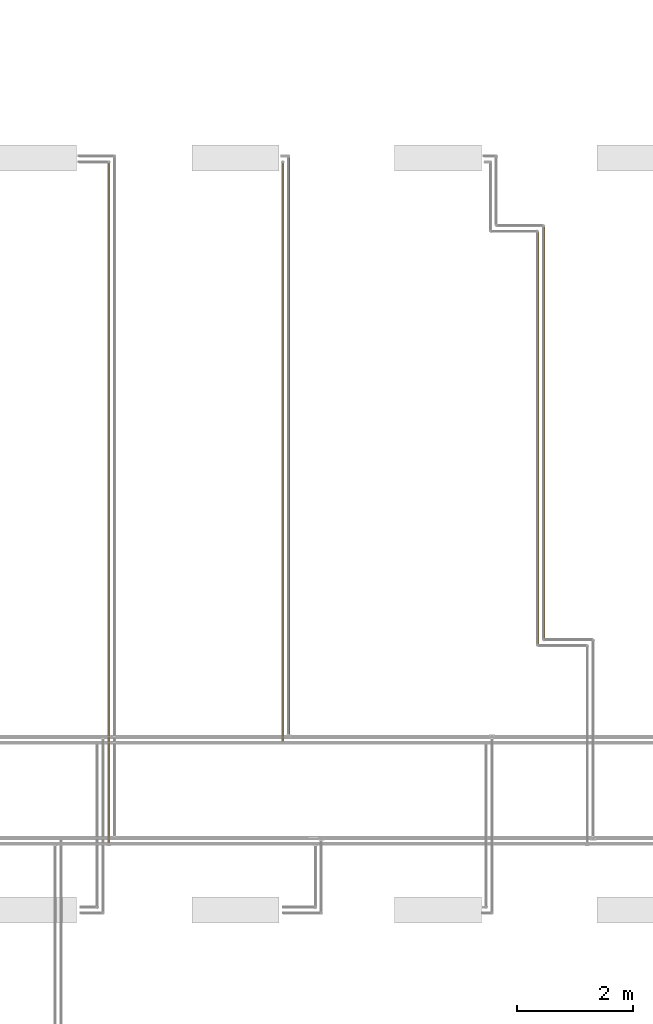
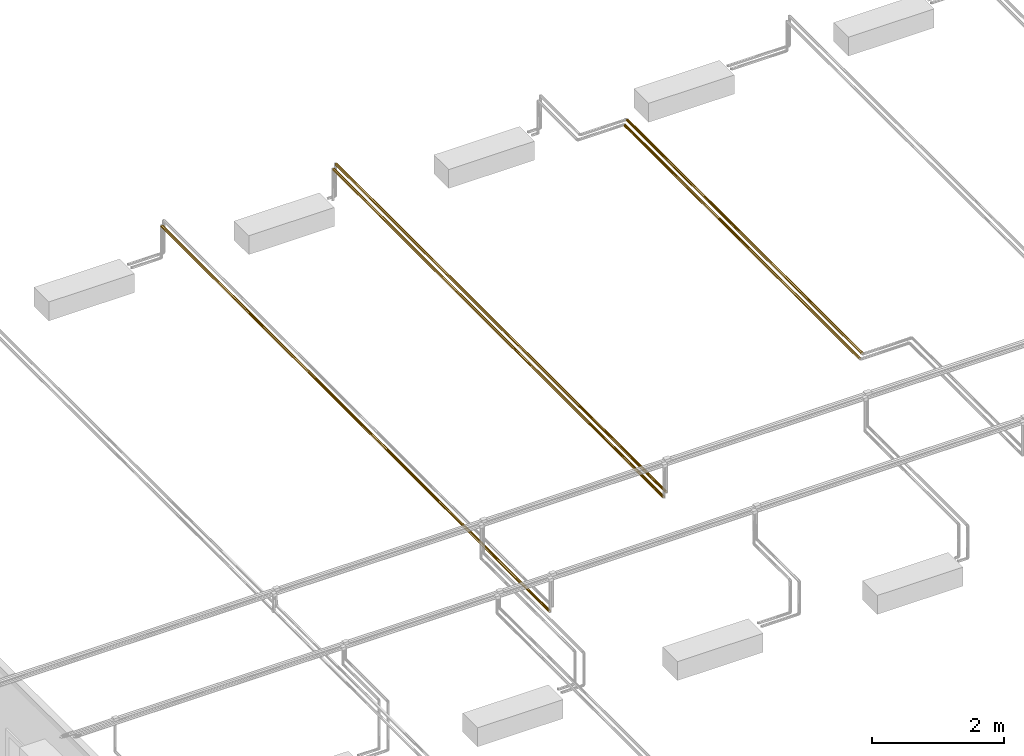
# One storey, part 132 of 652: 5 coverings.
"""IFC2X3 building model written with IfcOpenShell, lengths in millimetres."""

import ifcopenshell
import ifcopenshell.guid

model = None  # the IFC model being written
_history = None  # IfcOwnerHistory: only IFC2X3 demands one
_inside = {}  # id of a spatial element -> (the spatial element, [elements in it])
_under = {}  # id of a project, library or spatial element -> (it, [spatial elements below it])
_declared = {}  # id of a project -> (the project, [libraries it declares])
_typed = {}  # id of a type object -> (the type object, [elements of that type])
_made_of = {}  # id of a material, layer set ... -> (it, [elements and type objects made of it])


def new_model(schema):
    """Start an empty IFC model of exactly this schema.

    Asked for "IFC4X3", IfcOpenShell would pick the latest addendum, in which some entities
    have other attributes; the version numbers below select the first issue.
    IFC2X3 requires an IfcOwnerHistory on every rooted entity: one is made here for all.
    """
    global model, _history
    if schema == "IFC4X3":
        model = ifcopenshell.file(schema_version=(4, 3, 0, 0))
    else:
        model = ifcopenshell.file(schema=schema)
    _inside.clear()
    _under.clear()
    _declared.clear()
    _typed.clear()
    _made_of.clear()
    _history = None
    if model.schema == "IFC2X3":
        org = make("IfcOrganization", Name="unknown")
        user = make(
            "IfcPersonAndOrganization",
            ThePerson=make("IfcPerson", FamilyName="unknown"),
            TheOrganization=org,
        )
        app = make(
            "IfcApplication",
            ApplicationDeveloper=org,
            Version="unknown",
            ApplicationFullName="unknown",
            ApplicationIdentifier="unknown",
        )
        _history = make(
            "IfcOwnerHistory",
            OwningUser=user,
            OwningApplication=app,
            ChangeAction="ADDED",
            CreationDate=0,
        )
    return model


def make(cls, **values):
    """One entity of the class cls with the attributes given. An attribute that is None is left unset."""
    return model.create_entity(
        cls, **{name: value for name, value in values.items() if value is not None}
    )


def entity(cls, *values):
    """Any entity or typed value of the class cls, its attributes in the order of the schema. None: left unset."""
    e = model.create_entity(cls)
    for i, value in enumerate(values):
        if value is not None:
            e[i] = value
    return e


def rooted(cls, **values):
    """An entity with a GlobalId (a new one), such as an element, a storey or a relation."""
    return make(cls, GlobalId=ifcopenshell.guid.new(), OwnerHistory=_history, **values)


def si_unit(unit_type, name, prefix=None):
    """IfcSIUnit, for example si_unit("LENGTHUNIT", "METRE", prefix="MILLI")."""
    return make("IfcSIUnit", UnitType=unit_type, Prefix=prefix, Name=name)


def converted_unit(unit_type, name, factor, base, dimensions=None, offset=None):
    """IfcConversionBasedUnit, such as the inch: factor (a typed value) times the base unit."""
    return make(
        "IfcConversionBasedUnit"
        if offset is None
        else "IfcConversionBasedUnitWithOffset",
        ConversionOffset=offset,
        Dimensions=None
        if dimensions is None
        else entity("IfcDimensionalExponents", *dimensions),
        UnitType=unit_type,
        Name=name,
        ConversionFactor=make(
            "IfcMeasureWithUnit", ValueComponent=factor, UnitComponent=base
        ),
    )


def assignment(units):
    """IfcUnitAssignment: the units of a project."""
    return None if units is None else make("IfcUnitAssignment", Units=units)


def point(xyz):
    """IfcCartesianPoint."""
    return None if xyz is None else make("IfcCartesianPoint", Coordinates=xyz)


def direction(xyz):
    """IfcDirection."""
    return None if xyz is None else make("IfcDirection", DirectionRatios=xyz)


def frame(location, z_axis=None, x_axis=None):
    """IfcAxis2Placement3D, a coordinate frame: its origin and axes. An axis left out is left unset."""
    return make(
        "IfcAxis2Placement3D",
        Location=point(location),
        Axis=direction(z_axis),
        RefDirection=direction(x_axis),
    )


def origin():
    """The frame at (0, 0, 0) with its axes left unset."""
    return frame((0.0, 0.0, 0.0))


def place(relative_to, where):
    """IfcLocalPlacement: puts the frame where relative to a parent placement (None: the world)."""
    return make(
        "IfcLocalPlacement", PlacementRelTo=relative_to, RelativePlacement=where
    )


def context(
    kind, dimensions, precision=None, world=None, true_north=None, identifier=None
):
    """IfcGeometricRepresentationContext, for example the 3D "Model" context."""
    return make(
        "IfcGeometricRepresentationContext",
        ContextIdentifier=identifier,
        ContextType=kind,
        CoordinateSpaceDimension=dimensions,
        Precision=precision,
        WorldCoordinateSystem=world,
        TrueNorth=true_north,
    )


def subcontext(parent, identifier, kind, view, scale=None):
    """IfcGeometricRepresentationSubContext, for example "Body" below "Model"."""
    return make(
        "IfcGeometricRepresentationSubContext",
        ContextIdentifier=identifier,
        ContextType=kind,
        ParentContext=parent,
        TargetScale=scale,
        TargetView=view,
    )


def project(units=None, contexts=None):
    """IfcProject with its units and contexts."""
    return rooted(
        "IfcProject",
        Name="project",
        RepresentationContexts=contexts,
        UnitsInContext=assignment(units),
    )


def spatial(cls, under=None, at=None, **own):
    """A site, building, storey or space (cls), placed at a placement, below another one or the project."""
    s = rooted(cls, ObjectPlacement=at, **own)
    if under is not None:
        _under.setdefault(under.id(), (under, []))[1].append(s)
    return s


def faces_of(points, faces, orient=None, outer=None):
    """IfcFace entities. A face is a list of loops; a loop is a list of indices into points, from 0.

    orient and outer hold one flag for each loop. By default every Orientation is true, the
    first loop of a face is its IfcFaceOuterBound and the others are IfcFaceBound.
    """
    made = []
    for i, loops in enumerate(faces):
        bounds = []
        for j, loop in enumerate(loops):
            is_outer = j == 0 if outer is None else outer[i][j]
            bounds.append(
                make(
                    "IfcFaceOuterBound" if is_outer else "IfcFaceBound",
                    Bound=make("IfcPolyLoop", Polygon=[points[k] for k in loop]),
                    Orientation=True if orient is None else orient[i][j],
                )
            )
        made.append(make("IfcFace", Bounds=bounds))
    return made


def faceted_brep(points, faces, orient=None, outer=None, voids=None):
    """IfcFacetedBrep: a solid bounded by flat faces; with voids (closed shells), ...WithVoids."""
    shared = [point(p) for p in points]
    hull = make("IfcClosedShell", CfsFaces=faces_of(shared, faces, orient, outer))
    if voids is None:
        return make("IfcFacetedBrep", Outer=hull)
    return make(
        "IfcFacetedBrepWithVoids",
        Outer=hull,
        Voids=[
            make(cls, CfsFaces=faces_of(shared, fs, o, b)) for cls, fs, o, b in voids
        ],
    )


def shape(context_of_items, identifier, shape_type, items):
    """IfcShapeRepresentation: the items that make up one representation, for example the "Body"."""
    return make(
        "IfcShapeRepresentation",
        ContextOfItems=context_of_items,
        RepresentationIdentifier=identifier,
        RepresentationType=shape_type,
        Items=items,
    )


def material(Name=None, Category=None):
    """IfcMaterial."""
    return make("IfcMaterial", Name=Name, Category=Category)


def made_of(thing, what):
    """Note that an element or type object is made of a material, layer set ...; save() writes the relation."""
    if what is not None:
        _made_of.setdefault(what.id(), (what, []))[1].append(thing)
    return thing


def type_object(cls, material=None, **own):
    """A type object (cls), such as IfcWallType, which elements share."""
    return made_of(rooted(cls, **own), material)


def element(
    cls,
    number,
    at=None,
    inside=None,
    cuts=None,
    type_object=None,
    material=None,
    context=None,
    identifier="Body",
    shape_type=None,
    held_by="IfcProductDefinitionShape",
    body=None,
    shapes=None,
    **own,
):
    """One element of the class cls, such as IfcWall. Its Tag is "e" and its number.

    at: its placement. inside: the storey or other place that contains it. cuts: it is an
    opening in that element (IfcRelVoidsElement). A single representation is given by context,
    identifier, shape_type and body (its items); several are given by shapes. held_by: the class
    of the entity that holds the representations. save() writes the other relations.
    """
    e = rooted(cls, Tag="e%d" % number, ObjectPlacement=at, **own)
    if body is not None:
        shapes = [shape(context, identifier, shape_type, body)]
    if shapes is not None:
        e.Representation = make(held_by, Representations=shapes)
    if inside is not None:
        _inside.setdefault(inside.id(), (inside, []))[1].append(e)
    if cuts is not None:
        rooted(
            "IfcRelVoidsElement", RelatingBuildingElement=cuts, RelatedOpeningElement=e
        )
    if type_object is not None:
        _typed.setdefault(type_object.id(), (type_object, []))[1].append(e)
    return made_of(e, material)


def aggregate(whole, parts):
    """IfcRelAggregates: a whole, such as a stair, and the parts it consists of."""
    return rooted("IfcRelAggregates", RelatingObject=whole, RelatedObjects=parts)


def save(model, path):
    """Write the relations noted so far, then the file.

    IfcRelAggregates (storeys below a building ...), IfcRelContainedInSpatialStructure (elements
    in a storey), IfcRelDefinesByType, IfcRelAssociatesMaterial and IfcRelDeclares: one each for
    every whole, place, type object, material and project.
    """
    for whole, parts in _under.values():
        aggregate(whole, parts)
    for where, things in _inside.values():
        rooted(
            "IfcRelContainedInSpatialStructure",
            RelatedElements=things,
            RelatingStructure=where,
        )
    for kind, things in _typed.values():
        rooted("IfcRelDefinesByType", RelatedObjects=things, RelatingType=kind)
    for what, things in _made_of.values():
        rooted("IfcRelAssociatesMaterial", RelatedObjects=things, RelatingMaterial=what)
    for by, libraries in _declared.values():
        rooted("IfcRelDeclares", RelatingContext=by, RelatedDefinitions=libraries)
    model.write(path)


model = new_model("IFC2X3")

# Units and contexts
model_context = context("Model", 3, precision=0.01, world=frame((0.0, 0.0, 308426.39999999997)), true_north=direction((6.123233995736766e-17, 1.0)))
plan_context = context("Plan", 3, precision=0.01, world=frame((0.0, 0.0, 308426.39999999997)), true_north=direction((6.123233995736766e-17, 1.0)))
body_context = subcontext(model_context, "Body", "Model", "MODEL_VIEW")
ifc_project = project(units=[si_unit("LENGTHUNIT", "METRE", prefix="MILLI"), si_unit("AREAUNIT", "SQUARE_METRE"), si_unit("VOLUMEUNIT", "CUBIC_METRE"), converted_unit("PLANEANGLEUNIT", "DEGREE", entity("IfcPlaneAngleMeasure", 0.017453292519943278), si_unit("PLANEANGLEUNIT", "RADIAN"), dimensions=[0, 0, 0, 0, 0, 0, 0])], contexts=[model_context, plan_context])

# Site, building, storey
site_placement = place(None, origin())
site = spatial("IfcSite", under=ifc_project, at=site_placement, Name="Default", CompositionType="ELEMENT")
building_placement = place(site_placement, origin())
building = spatial("IfcBuilding", under=site, at=building_placement, CompositionType="ELEMENT")
storey_placement = place(building_placement, frame((0.0, 0.0, 1730.6999999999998)))
storey = spatial("IfcBuildingStorey", under=building, at=storey_placement, Name="EG_Produktion_FFB", CompositionType="ELEMENT", Elevation=1730.6999999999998)

# Coverings
ifc_material = material(Name="Dämmung - Armaflex-Schlauch")
covering_type = type_object("IfcCoveringType", Name="Rohrdämmung außen:Armaflex-Schlauch", PredefinedType="INSULATION")
covering_1_placement = place(storey_placement, frame((62241.95466089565, 69931.35497776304, 3274.642227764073)))
element("IfcCovering", 1, at=covering_1_placement, inside=storey, type_object=covering_type, material=ifc_material, Name="Rohrdämmung außen:Armaflex-Schlauch", ObjectType="Rohrdämmung außen:Armaflex-Schlauch", PredefinedType="INSULATION", context=body_context, shape_type="Brep", body=[
    faceted_brep([(12.755803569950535, 1.5952722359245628, 6.8151785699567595), (16.956459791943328, 1.5952722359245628, 5.075209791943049), (20.454018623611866, 1.5952722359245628, 3.6264734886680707), (25.35777223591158, 1.5952722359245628, 1.595272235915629), (29.558428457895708, 1.5952722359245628, 3.335241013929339), (33.759084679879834, 1.5952722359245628, 5.075209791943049), (37.95974090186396, 1.5952722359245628, 6.8151785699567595), (42.160397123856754, 1.5952722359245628, 8.55514734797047), (43.90036590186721, 1.5952722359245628, 12.755803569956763), (45.640334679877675, 1.5952722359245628, 16.956459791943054), (47.089070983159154, 1.5952722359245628, 20.454018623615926), (49.12027223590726, 1.5952722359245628, 25.35777223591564), (48.047093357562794, 1.5952722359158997, 30.292313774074), (46.97391447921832, 1.5952722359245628, 35.22685531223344), (43.95116498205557, 1.5952722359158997, 39.26743877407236), (40.92841548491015, 1.5952722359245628, 43.30802223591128), (9.787128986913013, 1.5952722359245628, 43.30802223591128), (6.764379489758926, 1.5952722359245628, 39.26743877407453), (3.7416299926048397, 1.5952722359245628, 35.22685531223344), (2.7439520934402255, 1.5952722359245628, 30.63947185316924), (1.5952722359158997, 1.5952722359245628, 25.35777223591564), (3.626473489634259, 1.5952722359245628, 20.454018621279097), (5.075209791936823, 1.5952722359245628, 16.956459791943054), (6.815178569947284, 1.5952722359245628, 12.755803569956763), (8.55514734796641, 1.5952722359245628, 8.55514734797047), (1.5952722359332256, 10005.697427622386, 25.357772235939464), (3.626473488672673, 10005.697427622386, 30.261525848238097), (5.075209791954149, 10005.697427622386, 33.75908467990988), (6.8151785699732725, 10005.697427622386, 37.959740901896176), (8.555147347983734, 10005.697427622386, 42.160397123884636), (12.755803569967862, 10005.697427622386, 43.900365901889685), (16.95645979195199, 10005.697427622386, 45.64033467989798), (20.454018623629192, 10005.697427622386, 47.08907098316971), (25.357772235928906, 10005.697427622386, 49.120272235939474), (29.558428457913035, 10005.697427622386, 47.380303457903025), (33.759084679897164, 10005.697427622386, 45.6403346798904), (37.95974090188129, 10005.697427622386, 43.90036590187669), (42.16039712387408, 10005.697427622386, 42.160397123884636), (43.90036590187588, 10005.697427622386, 37.95974090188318), (45.64033467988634, 10005.697427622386, 33.75908467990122), (47.089070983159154, 10005.697427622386, 30.26152584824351), (49.12027223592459, 10005.697427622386, 25.357772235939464), (47.9715923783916, 10005.697427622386, 20.076072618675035), (46.973914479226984, 10005.697427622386, 15.488689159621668), (43.951164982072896, 10005.697427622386, 11.448105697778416), (40.92841548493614, 10005.697427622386, 7.407522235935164), (9.787128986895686, 10005.697427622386, 7.407522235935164), (6.764379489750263, 10005.697427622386, 11.448105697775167), (3.7416299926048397, 10005.697427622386, 15.48868915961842), (2.743952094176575, 10005.697427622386, 20.076072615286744), (13.41742969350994, 10003.541519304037, 5.251613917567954), (17.04773040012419, 10001.38561098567, 3.095705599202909), (1.5952722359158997, 4558.996604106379, 25.35777223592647), (25.357772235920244, 4553.190898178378, 1.595272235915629), (20.026201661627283, 10000.84782817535, 2.5579227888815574), (25.357772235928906, 9999.885177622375, 1.595272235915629), (25.357772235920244, 5448.448293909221, 1.595272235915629), (37.4932292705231, 5323.664360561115, 4.927718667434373), (30.68934281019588, 10000.847828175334, 2.5579227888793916), (33.66781407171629, 10001.38561098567, 3.0957055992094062), (37.29811477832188, 10003.541519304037, 5.251613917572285), (49.12027223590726, 4558.996612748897, 25.35777223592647), (49.12027223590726, 5448.296087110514, 25.357772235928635), (37.49322927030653, 4683.628339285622, 45.787825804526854), (33.66781407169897, 5.9070888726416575, 47.61983887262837), (25.35777223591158, 4558.99661295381, 49.12027223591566), (30.689342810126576, 6.444871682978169, 48.1576216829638), (25.357772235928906, 5454.108336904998, 49.12027223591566), (37.29811477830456, 3.75118055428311, 45.46393055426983), (25.35777223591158, 7.407522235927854, 49.12027223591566), (20.026201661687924, 6.444871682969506, 48.1576216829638), (17.04773040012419, 5.9070888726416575, 47.61983887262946), (13.417429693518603, 3.75118055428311, 45.46393055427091)], [[[0, 1, 2, 3, 4, 5, 6, 7, 8, 9, 10, 11, 12, 13, 14, 15, 16, 17, 18, 19, 20, 21, 22, 23, 24]], [[25, 26, 27, 28, 29, 30, 31, 32, 33, 34, 35, 36, 37, 38, 39, 40, 41, 42, 43, 44, 45, 46, 47, 48, 49]], [[21, 49, 22]], [[50, 51, 1]], [[21, 20, 52]], [[22, 49, 48]], [[23, 22, 48]], [[0, 24, 46]], [[0, 46, 50]], [[53, 3, 2]], [[46, 24, 47]], [[54, 2, 51]], [[51, 2, 1]], [[54, 55, 56, 53]], [[2, 54, 53]], [[47, 24, 23]], [[49, 52, 25]], [[49, 21, 52]], [[23, 48, 47]], [[50, 1, 0]], [[57, 7, 6, 5]], [[4, 58, 59]], [[4, 3, 53, 56]], [[7, 57, 45]], [[57, 59, 60, 45]], [[43, 8, 44]], [[10, 42, 61]], [[56, 58, 4]], [[56, 55, 58]], [[42, 41, 62, 61]], [[4, 59, 5]], [[9, 8, 43]], [[9, 42, 10]], [[44, 8, 7]], [[5, 59, 57]], [[42, 9, 43]], [[61, 11, 10]], [[44, 7, 45]], [[39, 12, 40]], [[37, 63, 15]], [[62, 40, 12]], [[13, 38, 14]], [[38, 13, 39]], [[35, 64, 63]], [[65, 66, 34]], [[34, 33, 67, 65]], [[34, 66, 64]], [[63, 64, 68, 15]], [[34, 64, 35]], [[63, 37, 36, 35]], [[38, 37, 14]], [[65, 69, 66]], [[12, 11, 61, 62]], [[14, 37, 15]], [[12, 39, 13]], [[62, 41, 40]], [[70, 32, 71]], [[19, 26, 52]], [[67, 33, 32]], [[70, 69, 65, 67]], [[30, 16, 72]], [[30, 29, 16]], [[28, 18, 17]], [[17, 29, 28]], [[32, 70, 67]], [[18, 27, 19]], [[72, 71, 31]], [[28, 27, 18]], [[16, 29, 17]], [[71, 32, 31]], [[52, 20, 19]], [[26, 19, 27]], [[26, 25, 52]], [[72, 31, 30]], [[64, 66, 69, 70, 71, 72, 16, 15, 68]], [[45, 60, 59, 58, 55, 54, 51, 50, 46]]]),
])
covering_2_placement = place(storey_placement, frame((66646.95466089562, 71610.44746185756, 3274.642227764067)))
element("IfcCovering", 2, at=covering_2_placement, inside=storey, type_object=covering_type, material=ifc_material, Name="Rohrdämmung außen:Armaflex-Schlauch", ObjectType="Rohrdämmung außen:Armaflex-Schlauch", PredefinedType="INSULATION", context=body_context, shape_type="Brep", body=[
    faceted_brep([(1.5952722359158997, 1.5952722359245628, 25.357772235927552), (3.3352410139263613, 1.5952722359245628, 21.15711601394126), (5.075209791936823, 1.5952722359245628, 16.956459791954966), (6.81517856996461, 1.5952722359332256, 12.755803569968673), (8.55514734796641, 1.5952722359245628, 8.55514734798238), (12.755803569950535, 1.5952722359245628, 6.815178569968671), (16.956459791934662, 1.5952722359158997, 5.075209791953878), (19.6490005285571, 1.5952722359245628, 3.959922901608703), (25.35777223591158, 1.5952722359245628, 1.5952722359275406), (30.292313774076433, 1.5952722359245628, 2.668451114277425), (35.22685531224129, 1.5952722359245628, 3.741629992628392), (39.267438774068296, 1.5952722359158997, 6.764379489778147), (43.30802223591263, 1.5952722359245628, 9.787128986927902), (43.30802223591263, 1.5952722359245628, 40.92841548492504), (39.26743877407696, 1.5952722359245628, 43.95116498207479), (35.22685531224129, 1.5952722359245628, 46.973914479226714), (30.292313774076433, 1.5952722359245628, 48.04709335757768), (25.35777223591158, 1.5952722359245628, 49.120272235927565), (21.157116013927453, 1.5952722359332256, 47.380303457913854), (16.956459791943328, 1.5952722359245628, 45.64033467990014), (12.755803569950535, 1.5952722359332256, 43.90036590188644), (8.55514734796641, 1.5952722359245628, 42.16039712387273), (6.815178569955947, 1.5952722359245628, 37.959740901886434), (5.075209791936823, 1.5952722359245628, 33.75908467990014), (3.3352410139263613, 1.5952722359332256, 29.558428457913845), (15.48868915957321, 7126.604943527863, 3.7416299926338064), (11.448105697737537, 7126.604943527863, 6.764379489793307), (7.407522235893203, 7126.604943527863, 9.78712898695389), (7.407522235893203, 7126.604943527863, 40.92841548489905), (11.448105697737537, 7126.604943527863, 43.951164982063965), (15.488689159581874, 7126.604943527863, 46.973914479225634), (20.423230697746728, 7126.604943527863, 48.0470933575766), (25.35777223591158, 7126.604943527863, 49.12027223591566), (31.066543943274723, 7126.604943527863, 46.755621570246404), (33.759084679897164, 7126.604943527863, 45.640334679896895), (37.95974090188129, 7126.604943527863, 43.900365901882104), (42.160397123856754, 7126.604943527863, 42.16039712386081), (43.90036590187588, 7126.604943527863, 37.95974090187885), (45.64033467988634, 7126.604943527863, 33.75908467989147), (47.3803034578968, 7126.604943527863, 29.5584284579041), (49.12027223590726, 7126.604943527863, 25.35777223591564), (47.3803034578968, 7126.604943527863, 21.15711601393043), (45.640334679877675, 7126.604943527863, 16.95645979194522), (43.90036590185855, 7126.604943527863, 12.755803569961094), (42.160397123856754, 7126.604943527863, 8.55514734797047), (37.95974090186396, 7126.604943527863, 6.8151785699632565), (33.759084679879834, 7126.604943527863, 5.075209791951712), (29.558428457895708, 7126.604943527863, 3.335241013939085), (25.35777223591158, 7126.604943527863, 1.595272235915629), (20.423230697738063, 7126.604943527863, 2.6684511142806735), (1.5952722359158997, 7120.792693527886, 25.35777223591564), (2.345488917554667, 7121.542910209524, 21.202751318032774), (3.095705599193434, 7122.2931268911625, 17.04773040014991), (5.2516139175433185, 7124.449035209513, 13.4174296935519), (48.3700555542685, 6.657305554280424, 21.20275131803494), (45.46393055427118, 3.75118055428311, 13.417429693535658), (47.61983887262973, 5.9070888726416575, 17.04773040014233), (49.12027223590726, 7.407522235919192, 25.357772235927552), (48.3700555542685, 6.657305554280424, 29.512793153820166), (47.61983887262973, 5.9070888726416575, 33.66781407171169), (45.46393055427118, 3.75118055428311, 37.298114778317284), (5.2516139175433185, 7124.449035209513, 37.29811477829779), (3.095705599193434, 7122.2931268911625, 33.667814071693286), (2.345488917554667, 7121.542910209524, 29.512793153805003)], [[[0, 1, 2, 3, 4, 5, 6, 7, 8, 9, 10, 11, 12, 13, 14, 15, 16, 17, 18, 19, 20, 21, 22, 23, 24]], [[25, 26, 27, 28, 29, 30, 31, 32, 33, 34, 35, 36, 37, 38, 39, 40, 41, 42, 43, 44, 45, 46, 47, 48, 49]], [[50, 51, 0]], [[48, 8, 49]], [[1, 51, 52]], [[53, 2, 52]], [[25, 5, 26]], [[6, 5, 25, 7]], [[27, 3, 53]], [[8, 7, 49]], [[26, 5, 4]], [[7, 25, 49]], [[4, 27, 26]], [[0, 51, 1]], [[1, 52, 2]], [[3, 27, 4]], [[3, 2, 53]], [[11, 45, 44]], [[48, 47, 8]], [[46, 10, 9]], [[46, 45, 10]], [[40, 54, 41]], [[12, 43, 55]], [[56, 42, 41]], [[9, 47, 46]], [[42, 56, 55]], [[10, 45, 11]], [[54, 56, 41]], [[8, 47, 9]], [[44, 12, 11]], [[57, 54, 40]], [[43, 12, 44]], [[43, 42, 55]], [[40, 58, 57]], [[33, 15, 35, 34]], [[58, 40, 39]], [[59, 38, 60]], [[14, 36, 35]], [[36, 14, 13]], [[15, 33, 16]], [[13, 37, 36]], [[38, 59, 39]], [[32, 16, 33]], [[13, 60, 37]], [[35, 15, 14]], [[39, 59, 58]], [[32, 17, 16]], [[60, 38, 37]], [[32, 18, 17]], [[22, 28, 61]], [[21, 29, 28]], [[31, 19, 18]], [[20, 30, 29]], [[21, 28, 22]], [[61, 62, 23]], [[63, 50, 0]], [[31, 30, 19]], [[61, 23, 22]], [[29, 21, 20]], [[24, 62, 63]], [[20, 19, 30]], [[18, 32, 31]], [[23, 62, 24]], [[63, 0, 24]], [[12, 55, 56, 54, 57, 58, 59, 60, 13]], [[63, 62, 61, 28, 27, 53, 52, 51, 50]]]),
])
covering_3_placement = place(storey_placement, frame((62141.95466089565, 69831.35497776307, 3274.642227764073)))
element("IfcCovering", 3, at=covering_3_placement, inside=storey, type_object=covering_type, material=ifc_material, Name="Rohrdämmung außen:Armaflex-Schlauch", ObjectType="Rohrdämmung außen:Armaflex-Schlauch", PredefinedType="INSULATION", context=body_context, shape_type="Brep", body=[
    faceted_brep([(12.755803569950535, 1.5952722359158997, 6.8151785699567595), (16.956459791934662, 1.5952722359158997, 5.075209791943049), (20.4540186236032, 1.5952722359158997, 3.6264734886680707), (25.35777223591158, 1.5952722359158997, 1.595272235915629), (29.558428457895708, 1.5952722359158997, 3.335241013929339), (33.759084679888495, 1.5952722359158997, 5.075209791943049), (37.95974090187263, 1.5952722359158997, 6.8151785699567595), (42.160397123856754, 1.5952722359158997, 8.55514734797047), (43.90036590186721, 1.5952722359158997, 12.755803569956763), (45.640334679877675, 1.5952722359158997, 16.956459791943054), (47.089070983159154, 1.5952722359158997, 20.454018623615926), (49.12027223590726, 1.5952722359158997, 25.35777223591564), (48.047093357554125, 1.5952722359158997, 30.292313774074), (46.97391447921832, 1.5952722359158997, 35.22685531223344), (43.951164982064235, 1.5952722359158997, 39.26743877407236), (40.92841548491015, 1.5952722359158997, 43.30802223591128), (9.787128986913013, 1.5952722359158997, 43.30802223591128), (6.764379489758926, 1.5952722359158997, 39.26743877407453), (3.7416299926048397, 1.5952722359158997, 35.22685531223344), (2.7439520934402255, 1.5952722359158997, 30.63947185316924), (1.5952722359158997, 1.5952722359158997, 25.35777223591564), (3.626473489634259, 1.5952722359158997, 20.454018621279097), (5.075209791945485, 1.5952722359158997, 16.956459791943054), (6.815178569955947, 1.5952722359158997, 12.755803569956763), (8.55514734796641, 1.5952722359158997, 8.55514734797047), (1.5952722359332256, 10005.697427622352, 25.357772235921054), (3.62647348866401, 10005.697427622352, 30.26152584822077), (5.075209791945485, 10005.697427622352, 33.75908467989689), (6.81517856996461, 10005.697427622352, 37.95974090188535), (8.555147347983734, 10005.697427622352, 42.160397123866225), (12.755803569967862, 10005.697427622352, 43.90036590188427), (16.95645979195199, 10005.697427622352, 45.64033467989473), (20.454018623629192, 10005.697427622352, 47.089070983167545), (25.357772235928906, 10005.697427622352, 49.12027223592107), (29.558428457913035, 10005.697427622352, 47.38030345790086), (33.759084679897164, 10005.697427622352, 45.64033467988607), (37.95974090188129, 10005.697427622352, 43.900365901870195), (42.16039712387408, 10005.697427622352, 42.160397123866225), (43.90036590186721, 10005.697427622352, 37.95974090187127), (45.640334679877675, 10005.697427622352, 33.759084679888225), (47.089070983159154, 10005.697427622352, 30.261525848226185), (49.12027223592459, 10005.697427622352, 25.357772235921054), (47.97159237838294, 10005.697427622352, 20.07607261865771), (46.97391447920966, 10005.697427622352, 15.488689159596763), (43.951164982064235, 10005.697427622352, 11.448105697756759), (40.92841548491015, 10005.697427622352, 7.407522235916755), (9.78712898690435, 10005.697427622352, 7.407522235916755), (6.764379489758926, 10005.697427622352, 11.448105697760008), (3.7416299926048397, 10005.697427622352, 15.488689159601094), (2.743952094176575, 10005.697427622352, 20.076072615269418), (13.417429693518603, 10003.541519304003, 5.251613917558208), (17.047730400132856, 10001.385610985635, 3.0957055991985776), (1.5952722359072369, 4558.9966041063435, 25.357772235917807), (25.357772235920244, 4553.209770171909, 1.595272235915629), (20.026201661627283, 10000.847828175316, 2.5579227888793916), (25.357772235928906, 9999.885177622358, 1.595272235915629), (25.357772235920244, 5448.238839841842, 1.595272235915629), (37.49322927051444, 5323.6643605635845, 4.927718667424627), (30.689342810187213, 10000.847828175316, 2.557922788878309), (33.66781407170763, 10001.385610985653, 3.095705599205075), (37.29811477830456, 10003.541519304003, 5.251613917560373), (49.12027223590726, 4558.996612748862, 25.357772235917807), (49.12027223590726, 5448.296087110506, 25.35777223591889), (37.49322927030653, 4683.6283392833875, 45.787825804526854), (33.66781407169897, 5.907088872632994, 47.61983887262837), (25.357772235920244, 4558.996612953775, 49.12027223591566), (30.689342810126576, 6.444871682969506, 48.1576216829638), (25.357772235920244, 5454.108336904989, 49.12027223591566), (37.29811477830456, 3.751180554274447, 45.46393055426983), (25.35777223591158, 7.407522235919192, 49.12027223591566), (20.026201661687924, 6.4448716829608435, 48.1576216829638), (17.04773040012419, 5.907088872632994, 47.61983887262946), (13.417429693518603, 3.751180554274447, 45.46393055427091)], [[[0, 1, 2, 3, 4, 5, 6, 7, 8, 9, 10, 11, 12, 13, 14, 15, 16, 17, 18, 19, 20, 21, 22, 23, 24]], [[25, 26, 27, 28, 29, 30, 31, 32, 33, 34, 35, 36, 37, 38, 39, 40, 41, 42, 43, 44, 45, 46, 47, 48, 49]], [[21, 49, 22]], [[50, 51, 1]], [[21, 20, 52]], [[22, 49, 48]], [[23, 22, 48]], [[0, 24, 46]], [[0, 46, 50]], [[53, 3, 2]], [[46, 24, 47]], [[54, 2, 51]], [[51, 2, 1]], [[54, 55, 56, 53]], [[2, 54, 53]], [[47, 24, 23]], [[49, 52, 25]], [[49, 21, 52]], [[23, 48, 47]], [[50, 1, 0]], [[57, 7, 6, 5]], [[4, 58, 59]], [[4, 3, 53, 56]], [[7, 57, 45]], [[57, 59, 60, 45]], [[43, 8, 44]], [[10, 42, 61]], [[56, 58, 4]], [[56, 55, 58]], [[42, 41, 62, 61]], [[4, 59, 5]], [[9, 8, 43]], [[9, 42, 10]], [[44, 8, 7]], [[5, 59, 57]], [[42, 9, 43]], [[61, 11, 10]], [[44, 7, 45]], [[39, 12, 40]], [[37, 63, 15]], [[62, 40, 12]], [[13, 38, 14]], [[38, 13, 39]], [[35, 64, 63]], [[65, 66, 34]], [[34, 33, 67, 65]], [[34, 66, 64]], [[63, 64, 68, 15]], [[34, 64, 35]], [[63, 37, 36, 35]], [[38, 37, 14]], [[65, 69, 66]], [[12, 11, 61, 62]], [[14, 37, 15]], [[12, 39, 13]], [[62, 41, 40]], [[70, 32, 71]], [[19, 26, 52]], [[67, 33, 32]], [[70, 69, 65, 67]], [[30, 16, 72]], [[30, 29, 16]], [[28, 18, 17]], [[17, 29, 28]], [[32, 70, 67]], [[18, 27, 19]], [[72, 71, 31]], [[28, 27, 18]], [[16, 29, 17]], [[71, 32, 31]], [[52, 20, 19]], [[26, 19, 27]], [[26, 25, 52]], [[72, 31, 30]], [[64, 66, 69, 70, 71, 72, 16, 15, 68]], [[59, 58, 55, 54, 51, 50, 46, 45, 60]]]),
])
covering_4_placement = place(storey_placement, frame((59134.6422277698, 68081.35497776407, 3274.6422277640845)))
element("IfcCovering", 4, at=covering_4_placement, inside=storey, type_object=covering_type, material=ifc_material, Name="Rohrdämmung außen:Armaflex-Schlauch", ObjectType="Rohrdämmung außen:Armaflex-Schlauch", PredefinedType="INSULATION", context=body_context, shape_type="Brep", body=[
    faceted_brep([(12.755803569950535, 1.5952722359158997, 6.8151785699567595), (16.956459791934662, 1.5952722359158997, 5.075209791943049), (20.454018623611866, 1.5952722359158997, 3.626473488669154), (25.35777223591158, 1.5952722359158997, 1.595272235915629), (30.261525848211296, 1.5952722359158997, 3.626473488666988), (33.759084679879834, 1.5952722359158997, 5.075209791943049), (37.95974090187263, 1.5952722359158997, 6.8151785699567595), (42.160397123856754, 1.5952722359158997, 8.55514734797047), (43.90036590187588, 1.5952722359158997, 12.755803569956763), (45.640334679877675, 1.5952722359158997, 16.956459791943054), (47.089070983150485, 1.5952722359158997, 20.454018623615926), (49.12027223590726, 1.5952722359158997, 25.35777223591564), (47.9715923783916, 1.5952722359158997, 30.639471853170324), (46.97391447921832, 1.5952722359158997, 35.22685531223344), (43.951164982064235, 1.5952722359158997, 39.26743877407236), (40.92841548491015, 1.5952722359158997, 43.30802223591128), (9.787128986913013, 1.5952722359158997, 43.30802223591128), (6.764379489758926, 1.5952722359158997, 39.26743877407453), (3.7416299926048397, 1.5952722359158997, 35.22685531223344), (2.7439520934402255, 1.5952722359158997, 30.63947185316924), (1.5952722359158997, 1.5952722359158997, 25.35777223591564), (3.626473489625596, 1.5952722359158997, 20.45401862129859), (5.075209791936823, 1.5952722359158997, 16.956459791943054), (6.815178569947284, 1.5952722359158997, 12.755803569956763), (8.55514734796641, 1.5952722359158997, 8.55514734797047), (40.92841548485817, 11755.697427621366, 7.407522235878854), (9.78712898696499, 11755.697427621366, 7.407522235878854), (6.764379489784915, 11755.697427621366, 11.44810569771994), (3.7416299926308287, 11755.697427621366, 15.488689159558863), (2.7439520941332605, 11755.697427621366, 20.07607261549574), (1.5952722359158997, 11755.697427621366, 25.35777223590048), (3.62647348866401, 11755.697427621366, 30.261525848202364), (5.075209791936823, 11755.697427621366, 33.7590846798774), (6.815178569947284, 11755.697427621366, 37.95974090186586), (8.55514734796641, 11755.697427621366, 42.160397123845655), (12.755803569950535, 11755.697427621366, 43.90036590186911), (16.956459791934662, 11755.697427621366, 45.6403346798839), (20.4540186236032, 11755.697427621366, 47.08907098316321), (25.35777223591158, 11755.697427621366, 49.120272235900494), (30.26152584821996, 11755.697427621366, 47.08907098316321), (33.759084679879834, 11755.697427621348, 45.6403346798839), (37.95974090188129, 11755.697427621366, 43.90036590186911), (42.160397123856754, 11755.697427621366, 42.160397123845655), (43.90036590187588, 11755.697427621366, 37.95974090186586), (45.64033467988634, 11755.697427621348, 33.75908467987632), (47.089070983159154, 11755.697427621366, 30.26152584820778), (49.12027223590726, 11755.697427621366, 25.35777223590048), (47.971592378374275, 11755.697427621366, 20.07607261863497), (46.97391447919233, 11755.697427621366, 15.488689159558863), (43.95116498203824, 11755.697427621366, 11.448105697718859), (25.35777223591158, 6303.192462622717, 1.595272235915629), (20.026201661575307, 11750.847828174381, 2.557922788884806), (25.35777223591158, 11749.885177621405, 1.595272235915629), (1.5952722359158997, 6308.996605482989, 25.35777223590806), (6.330408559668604, 6486.527085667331, 11.123453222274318), (9.4907818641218, 7048.983584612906, 7.668933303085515), (13.417429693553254, 11753.541519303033, 5.251613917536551), (13.221912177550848, 6150.713748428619, 4.927958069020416), (17.047730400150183, 11751.385610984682, 3.0957055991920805), (41.22476260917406, 7048.983584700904, 7.668933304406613), (37.49363229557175, 6150.713747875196, 4.927958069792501), (30.68934281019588, 11750.847828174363, 2.5579227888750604), (33.66781407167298, 11751.385610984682, 3.0957055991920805), (37.298114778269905, 11753.541519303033, 5.251613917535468), (49.12027223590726, 6308.996612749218, 25.357772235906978), (44.385135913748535, 6486.52708450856, 11.1234532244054), (44.38513591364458, 5270.765615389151, 39.59209124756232), (41.285787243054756, 6988.672951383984, 42.99168116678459), (25.35777223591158, 5454.108336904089, 49.12027223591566), (33.66781407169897, 5.907088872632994, 47.61983887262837), (37.493632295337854, 5606.578951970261, 45.78758640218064), (30.689342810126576, 6.444871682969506, 48.1576216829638), (25.35777223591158, 7.407522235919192, 49.12027223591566), (37.29811477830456, 3.751180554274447, 45.46393055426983), (13.221912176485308, 5606.578951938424, 45.787586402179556), (20.026201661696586, 6.444871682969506, 48.15762168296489), (9.490781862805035, 4708.309114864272, 43.04661116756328), (13.41742969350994, 3.751180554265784, 45.46393055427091), (6.330408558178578, 5270.765615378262, 39.592091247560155), (17.04773040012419, 5.907088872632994, 47.61983887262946)], [[[0, 1, 2, 3, 4, 5, 6, 7, 8, 9, 10, 11, 12, 13, 14, 15, 16, 17, 18, 19, 20, 21, 22, 23, 24]], [[25, 26, 27, 28, 29, 30, 31, 32, 33, 34, 35, 36, 37, 38, 39, 40, 41, 42, 43, 44, 45, 46, 47, 48, 49]], [[22, 29, 28]], [[21, 29, 22]], [[50, 51, 52]], [[53, 30, 29]], [[54, 28, 27]], [[54, 55, 24]], [[55, 56, 57]], [[57, 51, 2]], [[50, 2, 51]], [[57, 2, 1, 0]], [[0, 24, 55]], [[50, 3, 2]], [[54, 22, 28]], [[57, 58, 51]], [[29, 21, 53]], [[21, 20, 53]], [[55, 26, 56]], [[54, 24, 23, 22]], [[58, 57, 56]], [[55, 57, 0]], [[55, 27, 26]], [[27, 55, 54]], [[59, 6, 60]], [[50, 52, 61]], [[62, 60, 61]], [[47, 9, 48]], [[60, 62, 63]], [[10, 9, 47]], [[64, 11, 10]], [[4, 3, 50]], [[61, 4, 50]], [[65, 9, 8, 7]], [[60, 4, 61]], [[59, 49, 65]], [[4, 60, 6, 5]], [[63, 59, 60]], [[9, 65, 48]], [[47, 46, 64]], [[64, 10, 47]], [[49, 59, 25]], [[59, 7, 6]], [[25, 59, 63]], [[49, 48, 65]], [[7, 59, 65]], [[66, 15, 14, 13]], [[44, 66, 13]], [[15, 66, 67]], [[64, 46, 45]], [[13, 12, 44]], [[66, 44, 43, 42]], [[39, 38, 68]], [[69, 70, 71]], [[68, 72, 71]], [[70, 69, 73, 15]], [[70, 39, 71]], [[67, 41, 70]], [[39, 70, 41, 40]], [[71, 39, 68]], [[45, 12, 64]], [[45, 44, 12]], [[12, 11, 64]], [[67, 66, 42]], [[41, 67, 42]], [[15, 67, 70]], [[74, 37, 36, 35]], [[18, 32, 19]], [[74, 75, 37]], [[68, 38, 37]], [[76, 77, 74]], [[34, 78, 76]], [[78, 18, 17]], [[74, 79, 75]], [[19, 32, 31]], [[68, 37, 75]], [[76, 16, 77]], [[78, 32, 18]], [[68, 75, 72]], [[53, 20, 19]], [[31, 30, 53]], [[53, 19, 31]], [[77, 79, 74]], [[76, 35, 34]], [[78, 34, 33, 32]], [[76, 74, 35]], [[16, 76, 17]], [[17, 76, 78]], [[69, 71, 72, 75, 79, 77, 16, 15, 73]], [[62, 61, 52, 51, 58, 56, 26, 25, 63]]]),
])
covering_5_placement = place(storey_placement, frame((66546.9546608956, 71510.44746185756, 3325.357772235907)))
element("IfcCovering", 5, at=covering_5_placement, inside=storey, type_object=covering_type, material=ifc_material, Name="Rohrdämmung außen:Armaflex-Schlauch", ObjectType="Rohrdämmung außen:Armaflex-Schlauch", PredefinedType="INSULATION", context=body_context, shape_type="Brep", body=[
    faceted_brep([(1.5952722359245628, 1.5952722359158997, -25.357772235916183), (3.335241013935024, 1.5952722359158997, -29.558428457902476), (5.075209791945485, 1.5952722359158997, -33.759084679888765), (6.8151785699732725, 1.5952722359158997, -37.95974090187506), (8.55514734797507, 1.5952722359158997, -42.16039712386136), (12.755803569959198, 1.5952722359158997, -43.90036590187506), (16.956459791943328, 1.5952722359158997, -45.640334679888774), (19.649000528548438, 1.5952722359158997, -46.755621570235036), (25.357772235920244, 1.5952722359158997, -49.1202722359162), (30.2923137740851, 1.5952722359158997, -48.04709335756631), (35.22685531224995, 1.5952722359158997, -46.973914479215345), (39.267438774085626, 1.5952722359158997, -43.95116498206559), (43.30802223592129, 1.5952722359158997, -40.92841548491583), (43.30802223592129, 1.5952722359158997, -9.787128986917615), (39.267438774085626, 1.5952722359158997, -6.764379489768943), (35.22685531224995, 1.5952722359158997, -3.741629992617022), (30.2923137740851, 1.5952722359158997, -2.6684511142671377), (25.357772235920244, 1.5952722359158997, -1.5952722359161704), (21.157116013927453, 1.5952722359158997, -3.3352410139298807), (16.95645979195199, 1.5952722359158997, -5.075209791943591), (12.755803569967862, 1.5952722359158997, -6.8151785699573), (8.55514734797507, 1.5952722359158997, -8.55514734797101), (6.815178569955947, 1.5952722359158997, -12.755803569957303), (5.075209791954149, 1.5952722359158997, -16.956459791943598), (3.335241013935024, 1.5952722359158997, -21.15711601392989), (15.488689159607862, 7126.6049435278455, -46.97391447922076), (11.448105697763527, 7126.6049435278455, -43.95116498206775), (7.407522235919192, 7126.6049435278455, -40.92841548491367), (7.407522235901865, 7126.6049435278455, -9.787128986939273), (11.4481056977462, 7126.6049435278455, -6.764379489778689), (15.488689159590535, 7126.6049435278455, -3.7416299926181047), (20.42323069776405, 7126.6049435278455, -2.6684511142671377), (25.357772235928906, 7126.6049435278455, -1.5952722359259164), (31.06654394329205, 7126.6049435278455, -3.959922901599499), (33.759084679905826, 7126.6049435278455, -5.075209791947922), (37.95974090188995, 7126.6049435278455, -6.8151785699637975), (42.16039712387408, 7126.6049435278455, -8.555147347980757), (43.90036590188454, 7126.6049435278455, -12.755803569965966), (45.640334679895, 7126.6049435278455, -16.95645979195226), (47.38030345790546, 7126.6049435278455, -21.157116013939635), (49.12027223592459, 7126.6049435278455, -25.35777223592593), (47.3803034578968, 7126.6049435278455, -29.558428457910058), (45.640334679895, 7126.6049435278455, -33.75908467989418), (43.90036590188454, 7126.6049435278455, -37.95974090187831), (42.16039712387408, 7126.6049435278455, -42.1603971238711), (37.95974090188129, 7126.6049435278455, -43.90036590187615), (33.759084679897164, 7126.6049435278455, -45.640334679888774), (29.558428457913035, 7126.6049435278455, -47.380303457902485), (25.357772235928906, 7126.6049435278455, -49.12027223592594), (20.42323069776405, 7126.6049435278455, -48.04709335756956), (1.5952722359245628, 7120.792693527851, -25.35777223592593), (2.34548891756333, 7121.5429102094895, -29.512793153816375), (3.09570559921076, 7122.293126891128, -33.6678140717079), (5.2516139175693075, 7124.449035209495, -37.29811477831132), (48.37005555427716, 6.657305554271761, -29.512793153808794), (45.46393055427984, 3.751180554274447, -37.298114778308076), (47.61983887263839, 5.907088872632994, -33.66781407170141), (49.12027223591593, 7.407522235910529, -25.357772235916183), (48.37005555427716, 6.657305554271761, -21.202751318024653), (47.61983887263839, 5.907088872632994, -17.047730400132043), (45.46393055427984, 3.751180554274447, -13.417429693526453), (5.251613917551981, 7124.449035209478, -13.417429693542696), (3.095705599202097, 7122.293126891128, -17.04773040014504), (2.34548891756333, 7121.5429102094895, -21.20275131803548)], [[[0, 1, 2, 3, 4, 5, 6, 7, 8, 9, 10, 11, 12, 13, 14, 15, 16, 17, 18, 19, 20, 21, 22, 23, 24]], [[25, 26, 27, 28, 29, 30, 31, 32, 33, 34, 35, 36, 37, 38, 39, 40, 41, 42, 43, 44, 45, 46, 47, 48, 49]], [[50, 51, 0]], [[48, 8, 49]], [[1, 51, 52]], [[53, 2, 52]], [[25, 5, 26]], [[6, 5, 25, 7]], [[27, 3, 53]], [[8, 7, 49]], [[26, 5, 4]], [[7, 25, 49]], [[4, 27, 26]], [[0, 51, 1]], [[1, 52, 2]], [[3, 27, 4]], [[3, 2, 53]], [[11, 45, 44]], [[48, 47, 8]], [[46, 10, 9]], [[46, 45, 10]], [[40, 54, 41]], [[12, 43, 55]], [[56, 42, 41]], [[9, 47, 46]], [[42, 56, 55]], [[10, 45, 11]], [[54, 56, 41]], [[8, 47, 9]], [[44, 12, 11]], [[57, 54, 40]], [[43, 12, 44]], [[43, 42, 55]], [[40, 58, 57]], [[33, 15, 35, 34]], [[58, 40, 39]], [[59, 38, 60]], [[14, 36, 35]], [[36, 14, 13]], [[15, 33, 16]], [[13, 37, 36]], [[38, 59, 39]], [[32, 16, 33]], [[13, 60, 37]], [[35, 15, 14]], [[39, 59, 58]], [[32, 17, 16]], [[60, 38, 37]], [[32, 18, 17]], [[22, 28, 61]], [[21, 29, 28]], [[31, 19, 18]], [[20, 30, 29]], [[21, 28, 22]], [[61, 62, 23]], [[63, 50, 0]], [[31, 30, 19]], [[61, 23, 22]], [[29, 21, 20]], [[24, 62, 63]], [[20, 19, 30]], [[18, 32, 31]], [[23, 62, 24]], [[63, 0, 24]], [[12, 55, 56, 54, 57, 58, 59, 60, 13]], [[62, 61, 28, 27, 53, 52, 51, 50, 63]]]),
])

save(model, "model.ifc")
